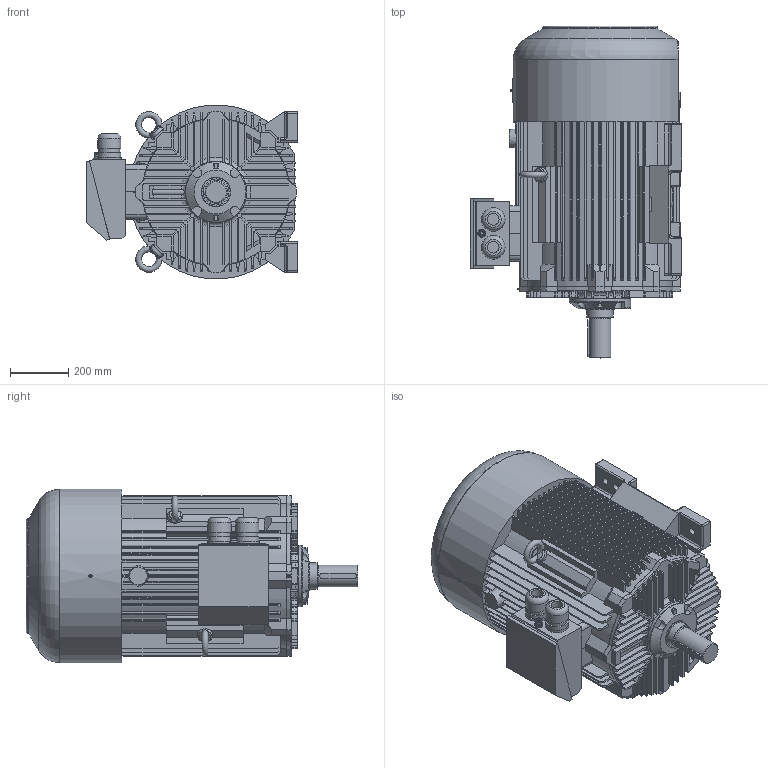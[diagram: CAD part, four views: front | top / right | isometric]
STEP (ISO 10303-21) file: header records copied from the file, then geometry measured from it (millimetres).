
FILE_DESCRIPTION(/* description */ ('Unknown'),/* implementation_level */ '2;1');
FILE_NAME(/* name */ '3SIE280S4_8, M4_8',/* time_stamp */ '2021-04-12T13:27:59+02:00',/* author */ ('Unknown'),/* organization */ ('Unknown'),/* preprocessor_version */ 'ST-DEVELOPER v16.7',/* originating_system */ 'DEX',/* authorisation */ $);
FILE_SCHEMA (('AUTOMOTIVE_DESIGN {1 0 10303 214 3 1 1}'));
Length unit declared in the file: millimetre
Products named in the file (1): 2SIE280 M_S4_6
Bounding box: 724.3 x 1134.98 x 594.39 mm (x, y, z)
Volume: 226666537.4 mm3; surface area: 4845894.1 mm2
Topology: 3 solids, 4 shells, 1414 faces, 3831 edges, 2420 vertices
Faces by surface type: plane 750, cylinder 390, torus 86, bspline 81, cone 67, sphere 40
Full cylindrical faces by diameter (mm): 1.6 x2, 5 x5, 11.083 x1, 19 x1, 20.752 x4, 21 x1, 23 x1, 24 x6, 27 x1, 40 x2, 50 x2, 71.32 x2, 75 x1, 78.781 x2, 80.024 x2, 81.268 x2, 89.1 x1, 98.8 x1, 100 x1, 208 x1, 210 x1
Entity records: 56467 total; most frequent: CARTESIAN_POINT 11939, ORIENTED_EDGE 7398, DIRECTION 7009, EDGE_CURVE 3699, AXIS2_PLACEMENT_3D 2440, VERTEX_POINT 2398, LINE 2129, VECTOR 2129
